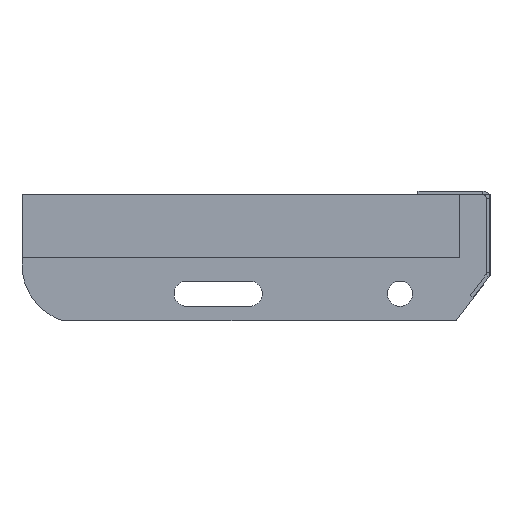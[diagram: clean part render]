
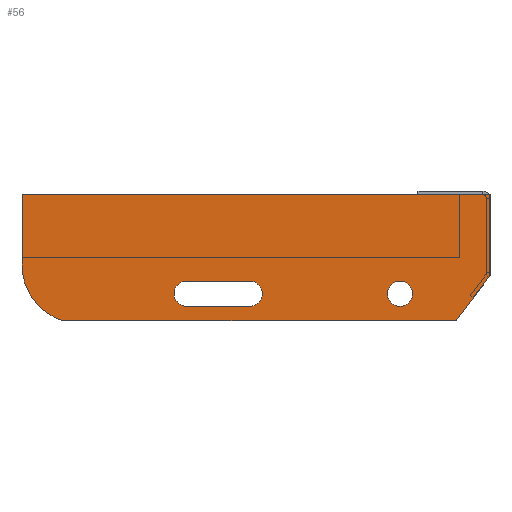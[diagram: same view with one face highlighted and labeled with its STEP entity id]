
A CAD part, left-side view. The second image highlights one B-rep face of the part: STEP entity #56.
In plain terms, the highlighted planar face has unit normal (-1, 0, 0) as drawn and (0, 0, 1) by its records, which use the part's own axes.
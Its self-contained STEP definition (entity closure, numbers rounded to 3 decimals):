
#5 = CARTESIAN_POINT ( 'NONE',  ( -168.5, -62., 3. ) ) ;
#8 = ORIENTED_EDGE ( 'NONE', *, *, #826, .F. ) ;
#24 = AXIS2_PLACEMENT_3D ( 'NONE', #1674, #885, #1356 ) ;
#55 = DIRECTION ( 'NONE',  ( 1., 0., 0. ) ) ;
#56 = ADVANCED_FACE ( 'NONE', ( #1000, #1134, #985 ), #1288, .T. ) ;
#144 = CARTESIAN_POINT ( 'NONE',  ( -168.5, -48., 3. ) ) ;
#147 = CARTESIAN_POINT ( 'NONE',  ( -260., 0., 3. ) ) ;
#165 = AXIS2_PLACEMENT_3D ( 'NONE', #215, #377, #55 ) ;
#168 = LINE ( 'NONE', #147, #1764 ) ;
#215 = CARTESIAN_POINT ( 'NONE',  ( -133.5, -55., 3. ) ) ;
#216 = VERTEX_POINT ( 'NONE', #889 ) ;
#219 = CARTESIAN_POINT ( 'NONE',  ( -57., -55., 3. ) ) ;
#244 = DIRECTION ( 'NONE',  ( 0., 0., 1. ) ) ;
#300 = LINE ( 'NONE', #1561, #1837 ) ;
#305 = VERTEX_POINT ( 'NONE', #5 ) ;
#315 = LINE ( 'NONE', #463, #676 ) ;
#329 = ORIENTED_EDGE ( 'NONE', *, *, #864, .T. ) ;
#332 = EDGE_LOOP ( 'NONE', ( #329, #1155, #633, #1331, #1434, #1628 ) ) ;
#347 = CARTESIAN_POINT ( 'NONE',  ( -227.5, -39., 3. ) ) ;
#353 = EDGE_CURVE ( 'NONE', #1967, #305, #430, .T. ) ;
#375 = EDGE_CURVE ( 'NONE', #1449, #1414, #1077, .T. ) ;
#377 = DIRECTION ( 'NONE',  ( 0., 0., 1. ) ) ;
#418 = CIRCLE ( 'NONE', #614, 7. ) ;
#425 = VERTEX_POINT ( 'NONE', #923 ) ;
#430 = CIRCLE ( 'NONE', #1850, 7. ) ;
#453 = CARTESIAN_POINT ( 'NONE',  ( -168.5, -48., 3. ) ) ;
#463 = CARTESIAN_POINT ( 'NONE',  ( -168.5, -62., 3. ) ) ;
#485 = VERTEX_POINT ( 'NONE', #1912 ) ;
#491 = DIRECTION ( 'NONE',  ( 1., 0., 0. ) ) ;
#510 = VERTEX_POINT ( 'NONE', #219 ) ;
#536 = DIRECTION ( 'NONE',  ( 1., 0., 0. ) ) ;
#544 = VECTOR ( 'NONE', #1435, 1000. ) ;
#604 = DIRECTION ( 'NONE',  ( -1., 0., 0. ) ) ;
#606 = VERTEX_POINT ( 'NONE', #1632 ) ;
#611 = CARTESIAN_POINT ( 'NONE',  ( -227.5, -39., 3. ) ) ;
#614 = AXIS2_PLACEMENT_3D ( 'NONE', #1551, #1708, #1389 ) ;
#632 = DIRECTION ( 'NONE',  ( 0., 0., 1. ) ) ;
#633 = ORIENTED_EDGE ( 'NONE', *, *, #932, .T. ) ;
#676 = VECTOR ( 'NONE', #1084, 1000. ) ;
#684 = ORIENTED_EDGE ( 'NONE', *, *, #946, .F. ) ;
#749 = CARTESIAN_POINT ( 'NONE',  ( -18.839, -70., 3. ) ) ;
#762 = EDGE_CURVE ( 'NONE', #606, #510, #1300, .T. ) ;
#777 = VECTOR ( 'NONE', #1688, 1000. ) ;
#826 = EDGE_CURVE ( 'NONE', #510, #606, #418, .T. ) ;
#853 = CARTESIAN_POINT ( 'NONE',  ( 0., -45., 3. ) ) ;
#864 = EDGE_CURVE ( 'NONE', #1259, #1024, #300, .T. ) ;
#874 = CARTESIAN_POINT ( 'NONE',  ( -18.839, -70., 3. ) ) ;
#885 = DIRECTION ( 'NONE',  ( 0., 0., 1. ) ) ;
#889 = CARTESIAN_POINT ( 'NONE',  ( -260., 0., 3. ) ) ;
#890 = LINE ( 'NONE', #1518, #777 ) ;
#891 = EDGE_CURVE ( 'NONE', #1431, #485, #1570, .T. ) ;
#895 = CARTESIAN_POINT ( 'NONE',  ( -260., -39., 3. ) ) ;
#908 = CIRCLE ( 'NONE', #24, 7. ) ;
#923 = CARTESIAN_POINT ( 'NONE',  ( -133.5, -62., 3. ) ) ;
#932 = EDGE_CURVE ( 'NONE', #216, #1431, #168, .T. ) ;
#946 = EDGE_CURVE ( 'NONE', #305, #425, #315, .T. ) ;
#949 = ORIENTED_EDGE ( 'NONE', *, *, #375, .F. ) ;
#985 = FACE_BOUND ( 'NONE', #1849, .T. ) ;
#1000 = FACE_OUTER_BOUND ( 'NONE', #332, .T. ) ;
#1004 = VERTEX_POINT ( 'NONE', #749 ) ;
#1024 = VERTEX_POINT ( 'NONE', #1447 ) ;
#1045 = CARTESIAN_POINT ( 'NONE',  ( -175.5, -55., 3. ) ) ;
#1046 = ORIENTED_EDGE ( 'NONE', *, *, #762, .F. ) ;
#1077 = LINE ( 'NONE', #453, #1879 ) ;
#1084 = DIRECTION ( 'NONE',  ( 1., 0., 0. ) ) ;
#1105 = ORIENTED_EDGE ( 'NONE', *, *, #1789, .F. ) ;
#1134 = FACE_BOUND ( 'NONE', #1362, .T. ) ;
#1136 = CIRCLE ( 'NONE', #165, 7. ) ;
#1138 = EDGE_CURVE ( 'NONE', #1024, #216, #1773, .T. ) ;
#1155 = ORIENTED_EDGE ( 'NONE', *, *, #1138, .T. ) ;
#1178 = ORIENTED_EDGE ( 'NONE', *, *, #1354, .F. ) ;
#1237 = AXIS2_PLACEMENT_3D ( 'NONE', #611, #1525, #1381 ) ;
#1259 = VERTEX_POINT ( 'NONE', #853 ) ;
#1288 = PLANE ( 'NONE',  #1742 ) ;
#1290 = EDGE_CURVE ( 'NONE', #485, #1004, #1489, .T. ) ;
#1300 = CIRCLE ( 'NONE', #1330, 7. ) ;
#1301 = DIRECTION ( 'NONE',  ( 0., 0., 1. ) ) ;
#1330 = AXIS2_PLACEMENT_3D ( 'NONE', #1652, #244, #536 ) ;
#1331 = ORIENTED_EDGE ( 'NONE', *, *, #891, .T. ) ;
#1354 = EDGE_CURVE ( 'NONE', #1414, #1967, #908, .T. ) ;
#1356 = DIRECTION ( 'NONE',  ( 1., 0., 0. ) ) ;
#1362 = EDGE_LOOP ( 'NONE', ( #8, #1046 ) ) ;
#1366 = CARTESIAN_POINT ( 'NONE',  ( -133.5, -48., 3. ) ) ;
#1381 = DIRECTION ( 'NONE',  ( 1., 0., 0. ) ) ;
#1389 = DIRECTION ( 'NONE',  ( 1., 0., 0. ) ) ;
#1405 = DIRECTION ( 'NONE',  ( 1., 0., 0. ) ) ;
#1414 = VERTEX_POINT ( 'NONE', #144 ) ;
#1431 = VERTEX_POINT ( 'NONE', #895 ) ;
#1434 = ORIENTED_EDGE ( 'NONE', *, *, #1290, .T. ) ;
#1435 = DIRECTION ( 'NONE',  ( -1., 0., 0. ) ) ;
#1447 = CARTESIAN_POINT ( 'NONE',  ( 0., 0., 3. ) ) ;
#1449 = VERTEX_POINT ( 'NONE', #1366 ) ;
#1489 = LINE ( 'NONE', #874, #1634 ) ;
#1518 = CARTESIAN_POINT ( 'NONE',  ( 0., -45., 3. ) ) ;
#1525 = DIRECTION ( 'NONE',  ( 0., 0., 1. ) ) ;
#1551 = CARTESIAN_POINT ( 'NONE',  ( -50., -55., 3. ) ) ;
#1561 = CARTESIAN_POINT ( 'NONE',  ( 0., 0., 3. ) ) ;
#1570 = CIRCLE ( 'NONE', #1237, 32.5 ) ;
#1571 = DIRECTION ( 'NONE',  ( 0., -1., 0. ) ) ;
#1628 = ORIENTED_EDGE ( 'NONE', *, *, #1977, .T. ) ;
#1632 = CARTESIAN_POINT ( 'NONE',  ( -43., -55., 3. ) ) ;
#1634 = VECTOR ( 'NONE', #1948, 1000. ) ;
#1652 = CARTESIAN_POINT ( 'NONE',  ( -50., -55., 3. ) ) ;
#1674 = CARTESIAN_POINT ( 'NONE',  ( -168.5, -55., 3. ) ) ;
#1688 = DIRECTION ( 'NONE',  ( 0.602, 0.799, 0. ) ) ;
#1708 = DIRECTION ( 'NONE',  ( 0., 0., 1. ) ) ;
#1724 = DIRECTION ( 'NONE',  ( 0., 1., 0. ) ) ;
#1732 = CARTESIAN_POINT ( 'NONE',  ( 0., 0., 3. ) ) ;
#1742 = AXIS2_PLACEMENT_3D ( 'NONE', #347, #1301, #491 ) ;
#1764 = VECTOR ( 'NONE', #1571, 1000. ) ;
#1773 = LINE ( 'NONE', #1732, #544 ) ;
#1789 = EDGE_CURVE ( 'NONE', #425, #1449, #1136, .T. ) ;
#1837 = VECTOR ( 'NONE', #1724, 1000. ) ;
#1849 = EDGE_LOOP ( 'NONE', ( #684, #1896, #1178, #949, #1105 ) ) ;
#1850 = AXIS2_PLACEMENT_3D ( 'NONE', #2021, #632, #1405 ) ;
#1879 = VECTOR ( 'NONE', #604, 1000. ) ;
#1896 = ORIENTED_EDGE ( 'NONE', *, *, #353, .F. ) ;
#1912 = CARTESIAN_POINT ( 'NONE',  ( -237.26, -70., 3. ) ) ;
#1948 = DIRECTION ( 'NONE',  ( 1., 0., 0. ) ) ;
#1967 = VERTEX_POINT ( 'NONE', #1045 ) ;
#1977 = EDGE_CURVE ( 'NONE', #1004, #1259, #890, .T. ) ;
#2021 = CARTESIAN_POINT ( 'NONE',  ( -168.5, -55., 3. ) ) ;
